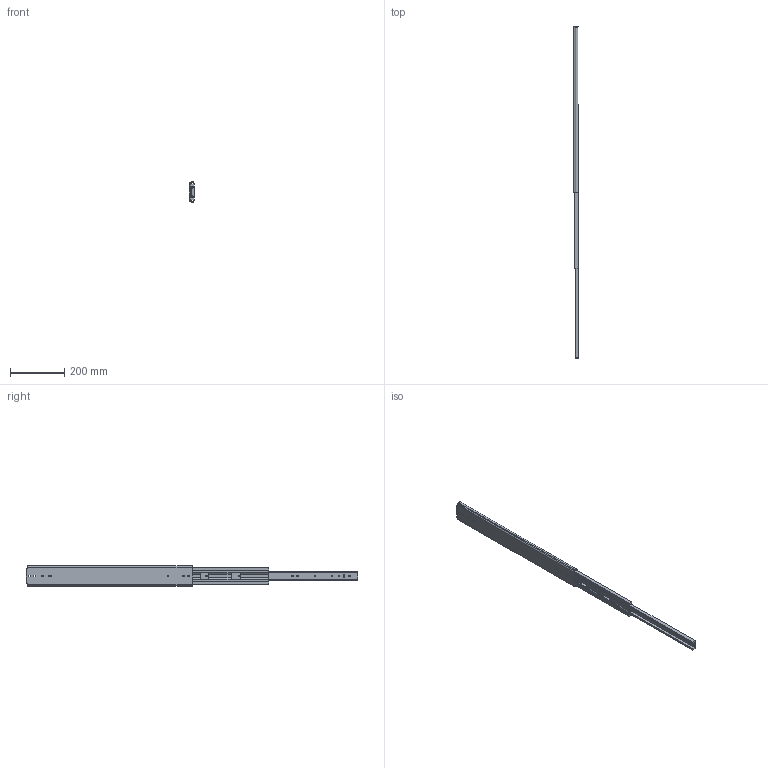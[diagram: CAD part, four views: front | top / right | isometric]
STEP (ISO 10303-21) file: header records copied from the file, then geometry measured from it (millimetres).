
FILE_DESCRIPTION(/* description */ ('Unknown'),/* implementation_level */ '2;1');
FILE_NAME(/* name */ '76J01-24 open',/* time_stamp */ '2024-07-26T15:48:16+08:00',/* author */ ('Unknown'),/* organization */ ('Unknown'),/* preprocessor_version */ 'ST-DEVELOPER v18.104',/* originating_system */ 'Solid Edge',/* authorisation */ 'Unknown');
FILE_SCHEMA (('AUTOMOTIVE_DESIGN {1 0 10303 214 3 1 1}'));
Length unit declared in the file: millimetre
Products named in the file (4): 76J01-24 open; 76J01 24 inch 內_0; 76J01 24 吋中_; 76J01 24 嬪
Assembly tree (3 placements, depth 2):
  76J01-24 open
    76J01 24 inch 內_0
    76J01 24 吋中_
    76J01 24 嬪
Bounding box: 19.3 x 1218.5 x 76.76 mm (x, y, z)
Volume: 475646.5 mm3; surface area: 296806.9 mm2
Topology: 3 solids, 3 shells, 188 faces, 575 edges, 387 vertices
Faces by surface type: plane 104, cylinder 84
Full cylindrical faces by diameter (mm): 5.2 x9, 7.1 x2
Entity records: 6871 total; most frequent: CARTESIAN_POINT 1124, ORIENTED_EDGE 1106, DIRECTION 1105, EDGE_CURVE 553, LINE 383, VECTOR 383, VERTEX_POINT 376, AXIS2_PLACEMENT_3D 361
